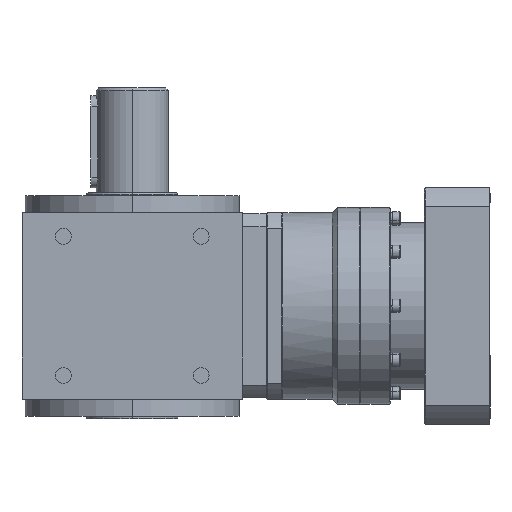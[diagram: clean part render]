
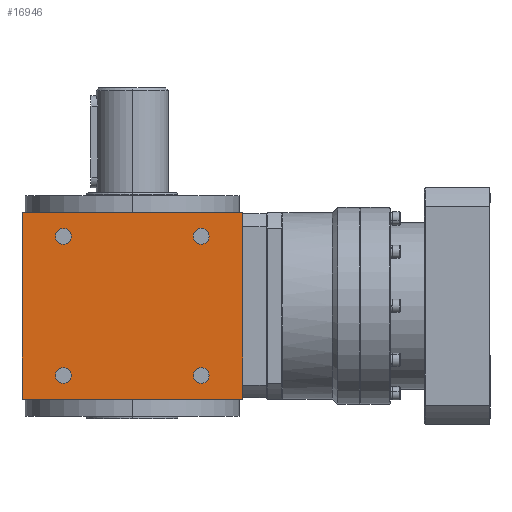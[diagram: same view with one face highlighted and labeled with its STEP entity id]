
A CAD part, left-side view. The second image highlights one B-rep face of the part: STEP entity #16946.
In plain terms, the highlighted planar face has unit normal (-1, 0, 0).
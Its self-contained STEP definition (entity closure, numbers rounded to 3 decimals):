
#1472 = AXIS2_PLACEMENT_3D ( 'NONE', #32264, #17602, #1948 ) ;
#1566 = ORIENTED_EDGE ( 'NONE', *, *, #34516, .F. ) ;
#1602 = DIRECTION ( 'NONE',  ( 0., -1., 0. ) ) ;
#1621 = CARTESIAN_POINT ( 'NONE',  ( -84., -52.5, -53. ) ) ;
#1746 = PLANE ( 'NONE',  #32397 ) ;
#1948 = DIRECTION ( 'NONE',  ( 0., -1., 0. ) ) ;
#2248 = AXIS2_PLACEMENT_3D ( 'NONE', #9814, #20097, #13798 ) ;
#3637 = DIRECTION ( 'NONE',  ( 0., -1., 0. ) ) ;
#3810 = DIRECTION ( 'NONE',  ( 1., 0., 0. ) ) ;
#4608 = CARTESIAN_POINT ( 'NONE',  ( -84., -84., -71. ) ) ;
#5164 = EDGE_CURVE ( 'NONE', #19837, #38081, #31457, .T. ) ;
#5357 = CARTESIAN_POINT ( 'NONE',  ( -84., 52.5, -53. ) ) ;
#5650 = VERTEX_POINT ( 'NONE', #39003 ) ;
#6101 = VERTEX_POINT ( 'NONE', #22185 ) ;
#7294 = DIRECTION ( 'NONE',  ( 0., -1., 0. ) ) ;
#7442 = ORIENTED_EDGE ( 'NONE', *, *, #23337, .F. ) ;
#7448 = EDGE_CURVE ( 'NONE', #18760, #6101, #21780, .T. ) ;
#7883 = VECTOR ( 'NONE', #20505, 1000. ) ;
#8020 = VECTOR ( 'NONE', #33564, 1000. ) ;
#8518 = CARTESIAN_POINT ( 'NONE',  ( -84., 52.5, -53. ) ) ;
#9014 = EDGE_CURVE ( 'NONE', #11559, #28629, #29441, .T. ) ;
#9177 = ORIENTED_EDGE ( 'NONE', *, *, #37233, .T. ) ;
#9275 = VERTEX_POINT ( 'NONE', #12346 ) ;
#9402 = AXIS2_PLACEMENT_3D ( 'NONE', #8518, #30282, #1602 ) ;
#9440 = AXIS2_PLACEMENT_3D ( 'NONE', #1621, #19524, #14030 ) ;
#9779 = CARTESIAN_POINT ( 'NONE',  ( -84., -46.5, -53. ) ) ;
#9814 = CARTESIAN_POINT ( 'NONE',  ( -84., -52.5, 53. ) ) ;
#9835 = AXIS2_PLACEMENT_3D ( 'NONE', #39904, #37031, #3637 ) ;
#10242 = CARTESIAN_POINT ( 'NONE',  ( -84., 84., -71. ) ) ;
#11520 = CARTESIAN_POINT ( 'NONE',  ( -84., 84., -71. ) ) ;
#11559 = VERTEX_POINT ( 'NONE', #10242 ) ;
#12024 = VERTEX_POINT ( 'NONE', #14999 ) ;
#12346 = CARTESIAN_POINT ( 'NONE',  ( -84., -84., 71. ) ) ;
#13078 = ORIENTED_EDGE ( 'NONE', *, *, #7448, .T. ) ;
#13729 = EDGE_CURVE ( 'NONE', #11559, #16783, #21345, .T. ) ;
#13798 = DIRECTION ( 'NONE',  ( 0., -1., 0. ) ) ;
#13867 = EDGE_LOOP ( 'NONE', ( #22865, #39708 ) ) ;
#13974 = DIRECTION ( 'NONE',  ( 0., -1., 0. ) ) ;
#14030 = DIRECTION ( 'NONE',  ( 0., -1., 0. ) ) ;
#14838 = CARTESIAN_POINT ( 'NONE',  ( -84., 84., -71. ) ) ;
#14999 = CARTESIAN_POINT ( 'NONE',  ( -84., 46.5, -53. ) ) ;
#15432 = CARTESIAN_POINT ( 'NONE',  ( -84., 46.5, 53. ) ) ;
#15575 = VECTOR ( 'NONE', #32698, 1000. ) ;
#15882 = VERTEX_POINT ( 'NONE', #39597 ) ;
#16519 = EDGE_LOOP ( 'NONE', ( #34272, #32284 ) ) ;
#16783 = VERTEX_POINT ( 'NONE', #19645 ) ;
#16785 = FACE_OUTER_BOUND ( 'NONE', #16843, .T. ) ;
#16843 = EDGE_LOOP ( 'NONE', ( #37180, #25195, #1566, #7442 ) ) ;
#16946 = ADVANCED_FACE ( 'NONE', ( #16785, #20661, #26973, #26362, #35728 ), #1746, .T. ) ;
#17602 = DIRECTION ( 'NONE',  ( 1., 0., 0. ) ) ;
#18760 = VERTEX_POINT ( 'NONE', #9779 ) ;
#19012 = CIRCLE ( 'NONE', #1472, 6. ) ;
#19524 = DIRECTION ( 'NONE',  ( 1., 0., 0. ) ) ;
#19645 = CARTESIAN_POINT ( 'NONE',  ( -84., 84., 71. ) ) ;
#19723 = ORIENTED_EDGE ( 'NONE', *, *, #29107, .T. ) ;
#19837 = VERTEX_POINT ( 'NONE', #23483 ) ;
#20097 = DIRECTION ( 'NONE',  ( 1., 0., 0. ) ) ;
#20319 = EDGE_LOOP ( 'NONE', ( #19723, #13078 ) ) ;
#20505 = DIRECTION ( 'NONE',  ( 0., -1., 0. ) ) ;
#20531 = AXIS2_PLACEMENT_3D ( 'NONE', #5357, #39976, #36100 ) ;
#20661 = FACE_BOUND ( 'NONE', #16519, .T. ) ;
#21345 = LINE ( 'NONE', #14838, #8020 ) ;
#21780 = CIRCLE ( 'NONE', #9440, 6. ) ;
#22185 = CARTESIAN_POINT ( 'NONE',  ( -84., -58.5, -53. ) ) ;
#22454 = AXIS2_PLACEMENT_3D ( 'NONE', #22752, #38448, #7294 ) ;
#22752 = CARTESIAN_POINT ( 'NONE',  ( -84., 52.5, 53. ) ) ;
#22865 = ORIENTED_EDGE ( 'NONE', *, *, #5164, .T. ) ;
#23337 = EDGE_CURVE ( 'NONE', #16783, #9275, #32707, .T. ) ;
#23483 = CARTESIAN_POINT ( 'NONE',  ( -84., -58.5, 53. ) ) ;
#23763 = CIRCLE ( 'NONE', #22454, 6. ) ;
#24190 = ORIENTED_EDGE ( 'NONE', *, *, #27611, .T. ) ;
#24898 = EDGE_CURVE ( 'NONE', #38081, #19837, #19012, .T. ) ;
#25195 = ORIENTED_EDGE ( 'NONE', *, *, #9014, .T. ) ;
#26362 = FACE_BOUND ( 'NONE', #20319, .T. ) ;
#26938 = CIRCLE ( 'NONE', #9402, 6. ) ;
#26973 = FACE_BOUND ( 'NONE', #13867, .T. ) ;
#27087 = EDGE_CURVE ( 'NONE', #35143, #15882, #23763, .T. ) ;
#27292 = AXIS2_PLACEMENT_3D ( 'NONE', #38619, #3810, #13974 ) ;
#27611 = EDGE_CURVE ( 'NONE', #12024, #5650, #28354, .T. ) ;
#28354 = CIRCLE ( 'NONE', #20531, 6. ) ;
#28629 = VERTEX_POINT ( 'NONE', #4608 ) ;
#28701 = VECTOR ( 'NONE', #29327, 1000. ) ;
#29107 = EDGE_CURVE ( 'NONE', #6101, #18760, #35809, .T. ) ;
#29203 = DIRECTION ( 'NONE',  ( -1., 0., 0. ) ) ;
#29327 = DIRECTION ( 'NONE',  ( 0., 0., -1. ) ) ;
#29441 = LINE ( 'NONE', #35365, #15575 ) ;
#30013 = DIRECTION ( 'NONE',  ( 0., -1., 0. ) ) ;
#30282 = DIRECTION ( 'NONE',  ( 1., 0., 0. ) ) ;
#31457 = CIRCLE ( 'NONE', #2248, 6. ) ;
#31981 = LINE ( 'NONE', #35452, #28701 ) ;
#32264 = CARTESIAN_POINT ( 'NONE',  ( -84., -52.5, 53. ) ) ;
#32284 = ORIENTED_EDGE ( 'NONE', *, *, #40019, .T. ) ;
#32397 = AXIS2_PLACEMENT_3D ( 'NONE', #11520, #29203, #30013 ) ;
#32698 = DIRECTION ( 'NONE',  ( 0., -1., 0. ) ) ;
#32707 = LINE ( 'NONE', #35576, #7883 ) ;
#33564 = DIRECTION ( 'NONE',  ( 0., 0., 1. ) ) ;
#34272 = ORIENTED_EDGE ( 'NONE', *, *, #27087, .T. ) ;
#34440 = CIRCLE ( 'NONE', #27292, 6. ) ;
#34516 = EDGE_CURVE ( 'NONE', #9275, #28629, #31981, .T. ) ;
#35143 = VERTEX_POINT ( 'NONE', #15432 ) ;
#35365 = CARTESIAN_POINT ( 'NONE',  ( -84., 0., -71. ) ) ;
#35452 = CARTESIAN_POINT ( 'NONE',  ( -84., -84., -71. ) ) ;
#35576 = CARTESIAN_POINT ( 'NONE',  ( -84., 0., 71. ) ) ;
#35728 = FACE_BOUND ( 'NONE', #36529, .T. ) ;
#35809 = CIRCLE ( 'NONE', #9835, 6. ) ;
#36100 = DIRECTION ( 'NONE',  ( 0., -1., 0. ) ) ;
#36529 = EDGE_LOOP ( 'NONE', ( #24190, #9177 ) ) ;
#36653 = CARTESIAN_POINT ( 'NONE',  ( -84., -46.5, 53. ) ) ;
#37031 = DIRECTION ( 'NONE',  ( 1., 0., 0. ) ) ;
#37180 = ORIENTED_EDGE ( 'NONE', *, *, #13729, .F. ) ;
#37233 = EDGE_CURVE ( 'NONE', #5650, #12024, #26938, .T. ) ;
#38081 = VERTEX_POINT ( 'NONE', #36653 ) ;
#38448 = DIRECTION ( 'NONE',  ( 1., 0., 0. ) ) ;
#38619 = CARTESIAN_POINT ( 'NONE',  ( -84., 52.5, 53. ) ) ;
#39003 = CARTESIAN_POINT ( 'NONE',  ( -84., 58.5, -53. ) ) ;
#39597 = CARTESIAN_POINT ( 'NONE',  ( -84., 58.5, 53. ) ) ;
#39708 = ORIENTED_EDGE ( 'NONE', *, *, #24898, .T. ) ;
#39904 = CARTESIAN_POINT ( 'NONE',  ( -84., -52.5, -53. ) ) ;
#39976 = DIRECTION ( 'NONE',  ( 1., 0., 0. ) ) ;
#40019 = EDGE_CURVE ( 'NONE', #15882, #35143, #34440, .T. ) ;
